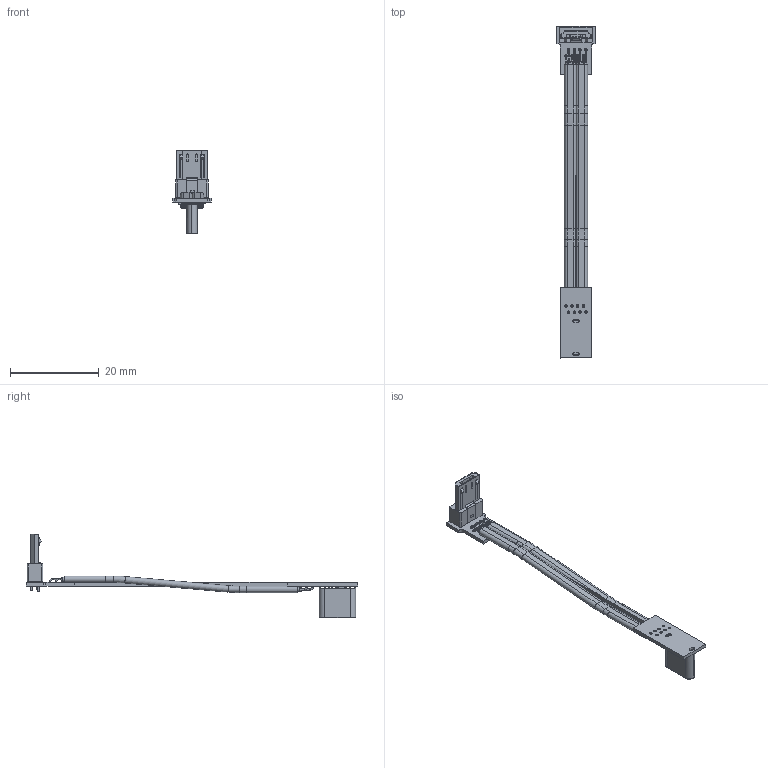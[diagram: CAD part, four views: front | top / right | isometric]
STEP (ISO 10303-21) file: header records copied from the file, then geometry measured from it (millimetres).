
FILE_DESCRIPTION(('Open CASCADE Model'),'2;1');
FILE_NAME('Open CASCADE Shape Model','2022-04-24T19:25:37',('Author'),( 'Open CASCADE'),'Open CASCADE STEP processor 6.8','Open CASCADE 6.8' ,'Unknown');
FILE_SCHEMA(('AUTOMOTIVE_DESIGN { 1 0 10303 214 1 1 1 1 }'));
Length unit declared in the file: millimetre
Products named in the file (74): PCB; Board; Open CASCADE STEP translator 6.8 1.1.1; gDesignator22; usb_2.0_20211221; Designator12; T2D-4_20211026; 12; 0603_RES; Capsule; Encapsulation; TopCover; C0603_060; Free-Models; 8_pin_S_20220421
Assembly tree (74 placements, depth 4):
  PCB
    Board
      Open CASCADE STEP translator 6.8 1.1.1
    gDesignator22
      usb_2.0_20211221
    Designator12
      T2D-4_20211026
      T2D-4_20211026
      T2D-4_20211026
      T2D-4_20211026
      T2D-4_20211026
      T2D-4_20211026
      T2D-4_20211026
      T2D-4_20211026
      T2D-4_20211026
      T2D-4_20211026
      T2D-4_20211026
      T2D-4_20211026
      T2D-4_20211026
      T2D-4_20211026
      T2D-4_20211026
      T2D-4_20211026
      T2D-4_20211026
      T2D-4_20211026
      T2D-4_20211026
      T2D-4_20211026
      T2D-4_20211026
      T2D-4_20211026
      T2D-4_20211026
      T2D-4_20211026
      T2D-4_20211026
      T2D-4_20211026
      T2D-4_20211026
      T2D-4_20211026
      T2D-4_20211026
      T2D-4_20211026
      T2D-4_20211026
      T2D-4_20211026
      T2D-4_20211026
      T2D-4_20211026
      T2D-4_20211026
      T2D-4_20211026
      T2D-4_20211026
      T2D-4_20211026
      T2D-4_20211026
      T2D-4_20211026
      T2D-4_20211026
      T2D-4_20211026
      T2D-4_20211026
      T2D-4_20211026
      T2D-4_20211026
      T2D-4_20211026
      T2D-4_20211026
      T2D-4_20211026
      T2D-4_20211026
      T2D-4_20211026
      T2D-4_20211026
      T2D-4_20211026
      T2D-4_20211026
      T2D-4_20211026
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Bounding box: 8.61 x 74.93 x 18.83 mm (x, y, z)
Volume: 622 mm3; surface area: 3478.4 mm2
Topology: 111 solids, 111 shells, 1343 faces, 3162 edges, 2048 vertices
Faces by surface type: plane 803, cylinder 404, bspline 62, torus 58, extrusion 8, sphere 8
Full cylindrical faces by diameter (mm): 0.55 x16, 0.7 x2
Entity records: 48932 total; most frequent: CARTESIAN_POINT 7992, DIRECTION 6506, ORIENTED_EDGE 6248, EDGE_CURVE 3124, AXIS2_PLACEMENT_3D 2182, VECTOR 2142, LINE 2134, VERTEX_POINT 2028
